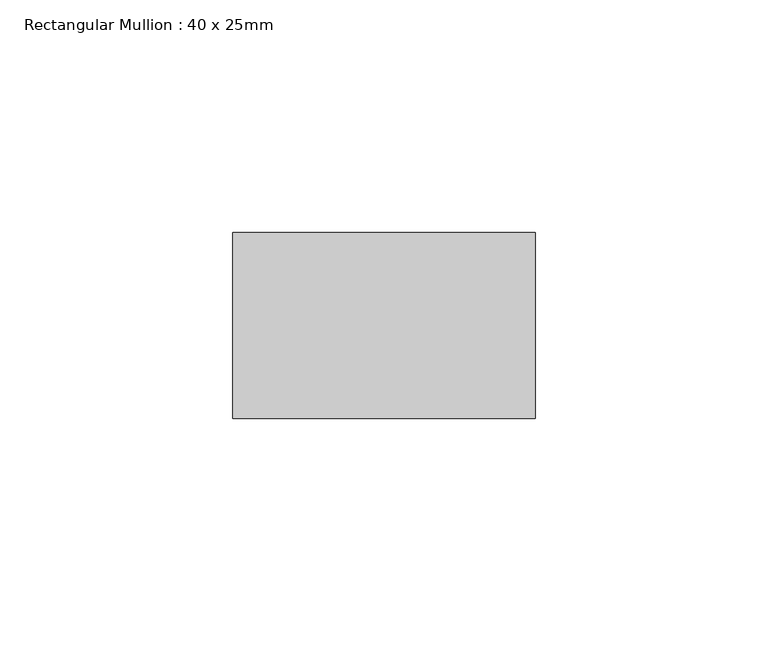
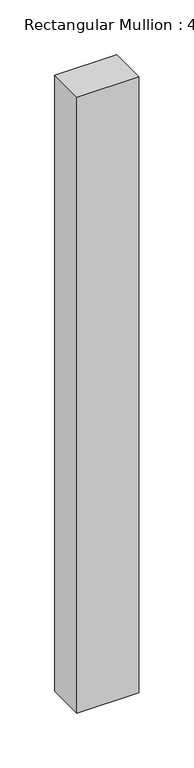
"""IFC4 building model written with IfcOpenShell, lengths in millimetres: member geometry, Rectangular Mullion : 40 x 25mm."""

from ifc_helpers import new_model, si_unit, frame, origin, place, context, project, spatial, polyline, outline, extrude, source, transform, mapped, element, save


def rectangular_mullion_40_x_25mm_c6bdf6af(model_context):
    return source(origin(), model_context, "Body", "SweptSolid", [
        extrude(outline(polyline([(0.0, -20.0), (0.0, -60.0), (-65.0, -60.0), (-65.0, -20.0), (0.0, -20.0)])), frame((0.0, 0.0, -683.5335938), z_axis=(0.0, 0.0, 1.0), x_axis=(1.0, 0.0, 0.0)), (0.0, 0.0, 1.0), 683.5335938),
    ])


if __name__ == "__main__":
    model = new_model("IFC4")
    model_context = context("Model", 3, world=origin())
    ifc_project = project(units=[si_unit("LENGTHUNIT", "METRE", prefix="MILLI")], contexts=[model_context])
    site = spatial("IfcSite", under=ifc_project)
    building = spatial("IfcBuilding", under=site)
    placement = place(None, origin())
    rectangular_mullion_40_x_25mm_shape = rectangular_mullion_40_x_25mm_c6bdf6af(model_context)
    element("IfcMember", 1, ObjectType="Rectangular Mullion : 40 x 25mm", at=placement, inside=building, context=model_context, shape_type="MappedRepresentation", body=[
        mapped(rectangular_mullion_40_x_25mm_shape, transform((0.0, 0.0, 0.0), x_axis=(1.0, 0.0, 0.0), y_axis=(0.0, 1.0, 0.0), z_axis=(0.0, 0.0, 1.0))),
    ])
    save(model, "model.ifc")
